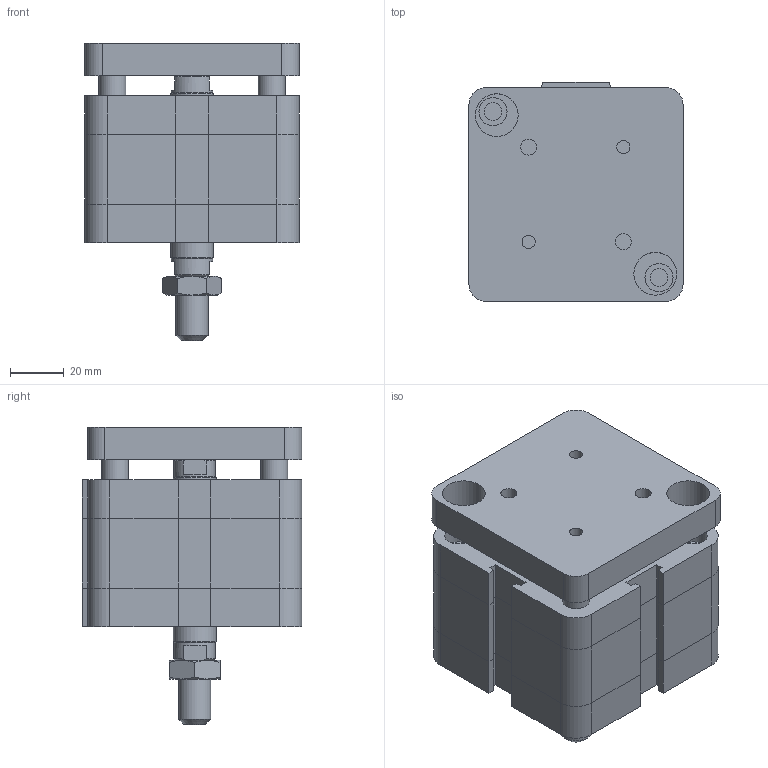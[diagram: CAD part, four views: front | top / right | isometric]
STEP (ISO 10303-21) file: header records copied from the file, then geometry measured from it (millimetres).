
FILE_DESCRIPTION((''),'2;1');
FILE_NAME('I:\Area Tecnica\Disegni\VARIE-3D\Componenti\EUROPE\15##_###_####_09_#\1581_63_0005_09_1.iam.stp','2009-04-20T15:47:03',(''),(''),'Autodesk Inventor 2009','Autodesk Inventor 2009','');
FILE_SCHEMA(('AUTOMOTIVE_DESIGN { 1 0 10303 214 1 1 1 1 }'));
Length unit declared in the file: millimetre
Products named in the file (4): 1581_63_0005_09_1; 1581_63_0005_08_1_C; 1561_63_0005_09_1_SA; DBFM12
Assembly tree (3 placements, depth 2):
  1581_63_0005_09_1
    1581_63_0005_08_1_C
    1561_63_0005_09_1_SA
    DBFM12
Bounding box: 80 x 82 x 111 mm (x, y, z)
Volume: 412189.5 mm3; surface area: 64249.4 mm2
Topology: 3 solids, 3 shells, 209 faces, 470 edges, 287 vertices
Faces by surface type: plane 120, bspline 45, cylinder 23, cone 21
Full cylindrical faces by diameter (mm): 10 x2, 10.8 x1, 12 x1, 15.6 x2, 16 x1
Entity records: 5963 total; most frequent: CARTESIAN_POINT 1453, DIRECTION 838, ORIENTED_EDGE 834, EDGE_CURVE 417, AXIS2_PLACEMENT_3D 282, EDGE_LOOP 282, VECTOR 274, LINE 274
